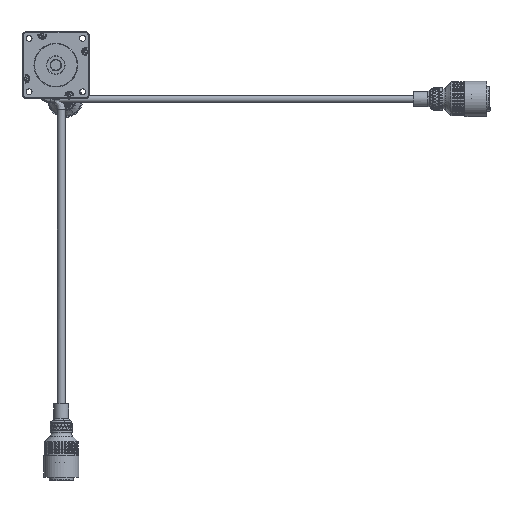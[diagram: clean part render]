
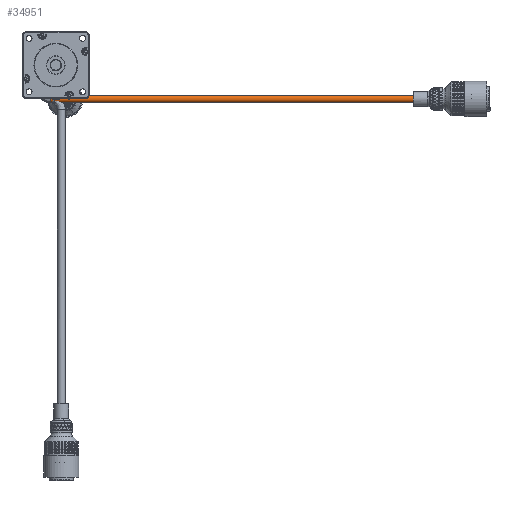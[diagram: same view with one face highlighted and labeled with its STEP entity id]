
A CAD part, top view. The second image highlights one B-rep face of the part: STEP entity #34951.
In plain terms, the highlighted cylindrical face has radius 3.375 mm (diameter 6.75 mm), a partial arc.
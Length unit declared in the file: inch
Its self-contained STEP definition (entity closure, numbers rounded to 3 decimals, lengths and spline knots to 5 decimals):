
#34718 = EDGE_CURVE ( 'NONE', #34721, #34722, #72505, .T. ) ;
#34721 = VERTEX_POINT ( 'NONE', #72500 ) ;
#34722 = VERTEX_POINT ( 'NONE', #72499 ) ;
#34951 = ADVANCED_FACE ( 'NONE', ( #72721 ), #72720, .T. ) ;
#34954 = EDGE_LOOP ( 'NONE', ( #34958, #34970, #34977, #34983 ) ) ;
#34958 = ORIENTED_EDGE ( 'NONE', *, *, #34964, .T. ) ;
#34964 = EDGE_CURVE ( 'NONE', #34965, #34967, #72714, .T. ) ;
#34965 = VERTEX_POINT ( 'NONE', #72710 ) ;
#34967 = VERTEX_POINT ( 'NONE', #72709 ) ;
#34970 = ORIENTED_EDGE ( 'NONE', *, *, #34975, .F. ) ;
#34975 = EDGE_CURVE ( 'NONE', #34721, #34967, #72708, .T. ) ;
#34977 = ORIENTED_EDGE ( 'NONE', *, *, #34718, .T. ) ;
#34983 = ORIENTED_EDGE ( 'NONE', *, *, #34985, .F. ) ;
#34985 = EDGE_CURVE ( 'NONE', #34965, #34722, #72704, .T. ) ;
#72499 = CARTESIAN_POINT ( 'NONE',  ( -0.17349, -1.30153, -3.18858 ) ) ;
#72500 = CARTESIAN_POINT ( 'NONE',  ( -0.17349, -1.03578, -3.18858 ) ) ;
#72501 = DIRECTION ( 'NONE',  ( 0., -1., 0. ) ) ;
#72502 = DIRECTION ( 'NONE',  ( 1., 0., 0. ) ) ;
#72503 = CARTESIAN_POINT ( 'NONE',  ( -0.17349, -1.16865, -3.18858 ) ) ;
#72504 = AXIS2_PLACEMENT_3D ( 'NONE', #72503, #72502, #72501 ) ;
#72505 = CIRCLE ( 'NONE', #72504, 0.13287 ) ;
#72701 = DIRECTION ( 'NONE',  ( -1., 0., 0. ) ) ;
#72702 = VECTOR ( 'NONE', #72701, 39.37008 ) ;
#72703 = CARTESIAN_POINT ( 'NONE',  ( -0.17349, -1.30153, -3.18858 ) ) ;
#72704 = LINE ( 'NONE', #72703, #72702 ) ;
#72705 = DIRECTION ( 'NONE',  ( 1., 0., 0. ) ) ;
#72706 = VECTOR ( 'NONE', #72705, 39.37008 ) ;
#72707 = CARTESIAN_POINT ( 'NONE',  ( -0.17349, -1.03578, -3.18858 ) ) ;
#72708 = LINE ( 'NONE', #72707, #72706 ) ;
#72709 = CARTESIAN_POINT ( 'NONE',  ( 14.20151, -1.03578, -3.18858 ) ) ;
#72710 = CARTESIAN_POINT ( 'NONE',  ( 14.20151, -1.30153, -3.18858 ) ) ;
#72711 = DIRECTION ( 'NONE',  ( 0., -1., 0. ) ) ;
#72712 = DIRECTION ( 'NONE',  ( -1., 0., 0. ) ) ;
#72713 = AXIS2_PLACEMENT_3D ( 'NONE', #72719, #72712, #72711 ) ;
#72714 = CIRCLE ( 'NONE', #72713, 0.13287 ) ;
#72715 = DIRECTION ( 'NONE',  ( 0., -1., 0. ) ) ;
#72716 = DIRECTION ( 'NONE',  ( 1., 0., 0. ) ) ;
#72717 = CARTESIAN_POINT ( 'NONE',  ( -0.17349, -1.16865, -3.18858 ) ) ;
#72718 = AXIS2_PLACEMENT_3D ( 'NONE', #72717, #72716, #72715 ) ;
#72719 = CARTESIAN_POINT ( 'NONE',  ( 14.20151, -1.16865, -3.18858 ) ) ;
#72720 = CYLINDRICAL_SURFACE ( 'NONE', #72718, 0.13287 ) ;
#72721 = FACE_OUTER_BOUND ( 'NONE', #34954, .T. ) ;
